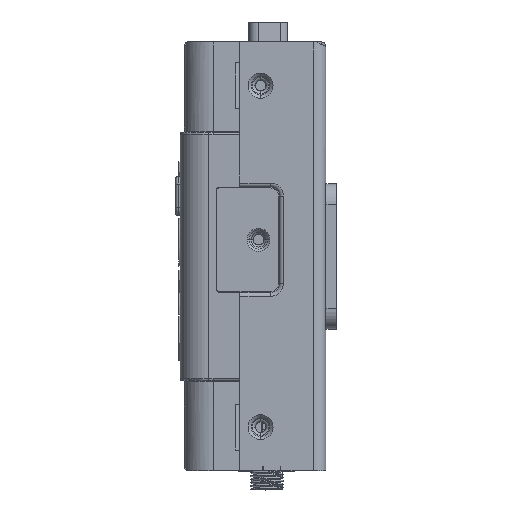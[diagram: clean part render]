
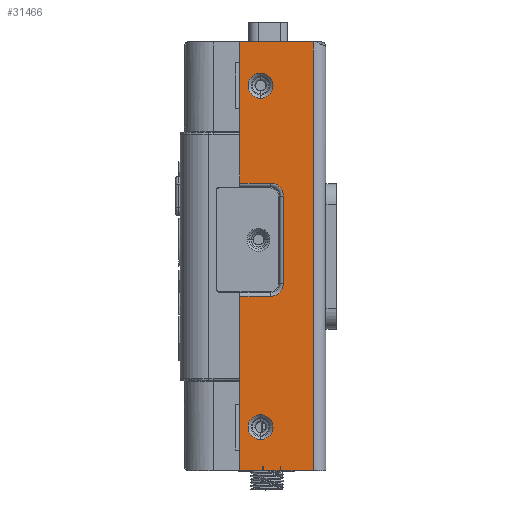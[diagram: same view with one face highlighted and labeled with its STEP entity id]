
A CAD part, left-side view. The second image highlights one B-rep face of the part: STEP entity #31466.
In plain terms, the highlighted planar face has unit normal (-1, 0, 0).
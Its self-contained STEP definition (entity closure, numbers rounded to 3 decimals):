
#210=CARTESIAN_POINT('',(-79.,15.7,-41.));
#211=DIRECTION('',(1.,0.,0.));
#212=DIRECTION('',(0.,0.,1.));
#213=AXIS2_PLACEMENT_3D('',#210,#211,#212);
#215=CARTESIAN_POINT('',(-79.,15.7,-41.));
#216=DIRECTION('',(1.,0.,0.));
#217=DIRECTION('',(0.,0.,-1.));
#218=AXIS2_PLACEMENT_3D('',#215,#216,#217);
#220=CARTESIAN_POINT('',(-79.,15.7,41.));
#221=DIRECTION('',(1.,0.,0.));
#222=DIRECTION('',(0.,0.,1.));
#223=AXIS2_PLACEMENT_3D('',#220,#221,#222);
#225=CARTESIAN_POINT('',(-79.,15.7,41.));
#226=DIRECTION('',(1.,0.,0.));
#227=DIRECTION('',(0.,0.,-1.));
#228=AXIS2_PLACEMENT_3D('',#225,#226,#227);
#230=CARTESIAN_POINT('',(-79.,13.3,-6.5));
#231=DIRECTION('',(1.,0.,0.));
#232=DIRECTION('',(0.,-1.,0.));
#233=AXIS2_PLACEMENT_3D('',#230,#231,#232);
#235=CARTESIAN_POINT('',(-79.,13.3,14.5));
#236=DIRECTION('',(1.,0.,0.));
#237=DIRECTION('',(0.,0.,1.));
#238=AXIS2_PLACEMENT_3D('',#235,#236,#237);
#240=DIRECTION('',(0.,0.,1.));
#241=VECTOR('',#240,11.75);
#242=CARTESIAN_POINT('',(-79.,20.7,17.6));
#243=LINE('',#242,#241);
#244=DIRECTION('',(0.,0.,-1.));
#245=VECTOR('',#244,22.15);
#246=CARTESIAN_POINT('',(-79.,20.7,51.5));
#247=LINE('',#246,#245);
#248=DIRECTION('',(0.,1.,0.));
#249=VECTOR('',#248,17.7);
#250=CARTESIAN_POINT('',(-79.,3.,51.5));
#251=LINE('',#250,#249);
#252=DIRECTION('',(0.,-1.,0.));
#253=VECTOR('',#252,7.85);
#254=CARTESIAN_POINT('',(-79.,10.85,-51.5));
#255=LINE('',#254,#253);
#256=DIRECTION('',(0.,0.,-1.));
#257=VECTOR('',#256,1.);
#258=CARTESIAN_POINT('',(-79.,10.85,-50.5));
#259=LINE('',#258,#257);
#260=DIRECTION('',(0.,-1.,0.));
#261=VECTOR('',#260,0.15);
#262=CARTESIAN_POINT('',(-79.,11.,-50.5));
#263=LINE('',#262,#261);
#264=DIRECTION('',(0.,0.,1.));
#265=VECTOR('',#264,1.);
#266=CARTESIAN_POINT('',(-79.,11.,-51.5));
#267=LINE('',#266,#265);
#268=DIRECTION('',(0.,-1.,0.));
#269=VECTOR('',#268,0.15);
#270=CARTESIAN_POINT('',(-79.,15.15,-50.5));
#271=LINE('',#270,#269);
#272=DIRECTION('',(0.,0.,1.));
#273=VECTOR('',#272,1.);
#274=CARTESIAN_POINT('',(-79.,15.15,-51.5));
#275=LINE('',#274,#273);
#276=DIRECTION('',(0.,-1.,0.));
#277=VECTOR('',#276,5.55);
#278=CARTESIAN_POINT('',(-79.,20.7,-51.5));
#279=LINE('',#278,#277);
#280=DIRECTION('',(0.,0.,-1.));
#281=VECTOR('',#280,22.153);
#282=CARTESIAN_POINT('',(-79.,20.7,-29.347));
#283=LINE('',#282,#281);
#284=DIRECTION('',(0.,0.,1.));
#285=VECTOR('',#284,19.747);
#286=CARTESIAN_POINT('',(-79.,20.7,-29.347));
#287=LINE('',#286,#285);
#308=DIRECTION('',(0.,-1.,0.));
#309=VECTOR('',#308,7.4);
#310=CARTESIAN_POINT('',(-79.,20.7,-9.6));
#311=LINE('',#310,#309);
#1234=DIRECTION('',(0.,0.,1.));
#1235=VECTOR('',#1234,1.);
#1236=CARTESIAN_POINT('',(-79.,15.,-51.5));
#1237=LINE('',#1236,#1235);
#1306=DIRECTION('',(0.,1.,0.));
#1307=VECTOR('',#1306,4.);
#1308=CARTESIAN_POINT('',(-79.,11.,-51.5));
#1309=LINE('',#1308,#1307);
#8995=DIRECTION('',(0.,0.,-1.));
#8996=VECTOR('',#8995,103.);
#8997=CARTESIAN_POINT('',(-79.,3.,51.5));
#8998=LINE('',#8997,#8996);
#24163=DIRECTION('',(0.,1.,0.));
#24164=VECTOR('',#24163,7.4);
#24165=CARTESIAN_POINT('',(-79.,13.3,
17.6));
#24166=LINE('',#24165,#24164);
#24181=DIRECTION('',(0.,0.,1.));
#24182=VECTOR('',#24181,21.);
#24183=CARTESIAN_POINT('',(-79.,10.2,
-6.5));
#24184=LINE('',#24183,#24182);
#26913=CARTESIAN_POINT('',(-79.,3.,-51.5));
#26914=VERTEX_POINT('',#26913);
#26989=CARTESIAN_POINT('',(-79.,3.,51.5));
#26990=VERTEX_POINT('',#26989);
#27071=CARTESIAN_POINT('',(-79.,10.85,-51.5));
#27072=VERTEX_POINT('',#27071);
#27139=CARTESIAN_POINT('',(-79.,20.7,51.5));
#27140=VERTEX_POINT('',#27139);
#27207=CARTESIAN_POINT('',(-79.,10.85,-50.5));
#27208=VERTEX_POINT('',#27207);
#27255=CARTESIAN_POINT('',(-79.,15.7,-38.));
#27256=CARTESIAN_POINT('',(-79.,15.7,-44.));
#27257=VERTEX_POINT('',#27255);
#27258=VERTEX_POINT('',#27256);
#27259=CARTESIAN_POINT('',(-79.,20.7,-51.5));
#27260=CARTESIAN_POINT('',(-79.,15.15,-51.5));
#27261=VERTEX_POINT('',#27259);
#27262=VERTEX_POINT('',#27260);
#27277=CARTESIAN_POINT('',(-79.,15.15,-50.5));
#27278=VERTEX_POINT('',#27277);
#27283=CARTESIAN_POINT('',(-79.,13.3,17.6));
#27285=VERTEX_POINT('',#27283);
#27314=CARTESIAN_POINT('',(-79.,13.3,-9.6));
#27316=VERTEX_POINT('',#27314);
#27317=CARTESIAN_POINT('',(-79.,15.7,44.));
#27318=CARTESIAN_POINT('',(-79.,15.7,38.));
#27319=VERTEX_POINT('',#27317);
#27320=VERTEX_POINT('',#27318);
#27321=CARTESIAN_POINT('',(-79.,10.2,
-6.5));
#27322=VERTEX_POINT('',#27321);
#27328=CARTESIAN_POINT('',(-79.,10.2,14.5));
#27330=VERTEX_POINT('',#27328);
#27777=CARTESIAN_POINT('',(-79.,11.,-51.5));
#27778=VERTEX_POINT('',#27777);
#27813=CARTESIAN_POINT('',(-79.,15.,-51.5));
#27814=VERTEX_POINT('',#27813);
#30691=CARTESIAN_POINT('',(-79.,15.,-50.5));
#30692=VERTEX_POINT('',#30691);
#30693=CARTESIAN_POINT('',(-79.,11.,-50.5));
#30694=VERTEX_POINT('',#30693);
#30711=CARTESIAN_POINT('',(-79.,20.7,
-29.347));
#30712=CARTESIAN_POINT('',(-79.,20.7,-9.6));
#30713=VERTEX_POINT('',#30711);
#30714=VERTEX_POINT('',#30712);
#30715=CARTESIAN_POINT('',(-79.,20.7,17.6));
#30716=CARTESIAN_POINT('',(-79.,20.7,
29.35));
#30717=VERTEX_POINT('',#30715);
#30718=VERTEX_POINT('',#30716);
#31410=CARTESIAN_POINT('',(-79.,1.,51.5));
#31411=DIRECTION('',(-1.,0.,0.));
#31412=DIRECTION('',(0.,0.,1.));
#31413=AXIS2_PLACEMENT_3D('',#31410,#31411,#31412);
#31414=PLANE('',#31413);
#31416=ORIENTED_EDGE('',*,*,#31415,.T.);
#31418=ORIENTED_EDGE('',*,*,#31417,.F.);
#31420=ORIENTED_EDGE('',*,*,#31419,.T.);
#31422=ORIENTED_EDGE('',*,*,#31421,.F.);
#31424=ORIENTED_EDGE('',*,*,#31423,.T.);
#31426=ORIENTED_EDGE('',*,*,#31425,.T.);
#31427=ORIENTED_EDGE('',*,*,#31320,.F.);
#31429=ORIENTED_EDGE('',*,*,#31428,.F.);
#31431=ORIENTED_EDGE('',*,*,#31430,.T.);
#31433=ORIENTED_EDGE('',*,*,#31432,.F.);
#31435=ORIENTED_EDGE('',*,*,#31434,.F.);
#31437=ORIENTED_EDGE('',*,*,#31436,.F.);
#31439=ORIENTED_EDGE('',*,*,#31438,.F.);
#31441=ORIENTED_EDGE('',*,*,#31440,.T.);
#31443=ORIENTED_EDGE('',*,*,#31442,.T.);
#31445=ORIENTED_EDGE('',*,*,#31444,.F.);
#31447=ORIENTED_EDGE('',*,*,#31446,.F.);
#31449=ORIENTED_EDGE('',*,*,#31448,.F.);
#31451=ORIENTED_EDGE('',*,*,#31450,.F.);
#31453=ORIENTED_EDGE('',*,*,#31452,.T.);
#31454=EDGE_LOOP('',(#31416,#31418,#31420,#31422,#31424,#31426,#31427,#31429,
#31431,#31433,#31435,#31437,#31439,#31441,#31443,#31445,#31447,#31449,#31451,
#31453));
#31455=FACE_OUTER_BOUND('',#31454,.F.);
#31457=ORIENTED_EDGE('',*,*,#31456,.F.);
#31459=ORIENTED_EDGE('',*,*,#31458,.F.);
#31460=EDGE_LOOP('',(#31457,#31459));
#31461=FACE_BOUND('',#31460,.F.);
#31462=ORIENTED_EDGE('',*,*,#31389,.F.);
#31463=ORIENTED_EDGE('',*,*,#31403,.F.);
#31464=EDGE_LOOP('',(#31462,#31463));
#31465=FACE_BOUND('',#31464,.F.);
#214=CIRCLE('',#213,3.);
#219=CIRCLE('',#218,3.);
#224=CIRCLE('',#223,3.);
#229=CIRCLE('',#228,3.);
#234=CIRCLE('',#233,3.1);
#239=CIRCLE('',#238,3.1);
#31320=EDGE_CURVE('',#27140,#30718,#247,.T.);
#31389=EDGE_CURVE('',#27257,#27258,#214,.T.);
#31403=EDGE_CURVE('',#27258,#27257,#219,.T.);
#31415=EDGE_CURVE('',#30714,#27316,#311,.T.);
#31417=EDGE_CURVE('',#27322,#27316,#234,.T.);
#31419=EDGE_CURVE('',#27322,#27330,#24184,.T.);
#31421=EDGE_CURVE('',#27285,#27330,#239,.T.);
#31423=EDGE_CURVE('',#27285,#30717,#24166,.T.);
#31425=EDGE_CURVE('',#30717,#30718,#243,.T.);
#31428=EDGE_CURVE('',#26990,#27140,#251,.T.);
#31430=EDGE_CURVE('',#26990,#26914,#8998,.T.);
#31432=EDGE_CURVE('',#27072,#26914,#255,.T.);
#31434=EDGE_CURVE('',#27208,#27072,#259,.T.);
#31436=EDGE_CURVE('',#30694,#27208,#263,.T.);
#31438=EDGE_CURVE('',#27778,#30694,#267,.T.);
#31440=EDGE_CURVE('',#27778,#27814,#1309,.T.);
#31442=EDGE_CURVE('',#27814,#30692,#1237,.T.);
#31444=EDGE_CURVE('',#27278,#30692,#271,.T.);
#31446=EDGE_CURVE('',#27262,#27278,#275,.T.);
#31448=EDGE_CURVE('',#27261,#27262,#279,.T.);
#31450=EDGE_CURVE('',#30713,#27261,#283,.T.);
#31452=EDGE_CURVE('',#30713,#30714,#287,.T.);
#31456=EDGE_CURVE('',#27319,#27320,#224,.T.);
#31458=EDGE_CURVE('',#27320,#27319,#229,.T.);
#31466=ADVANCED_FACE('',(#31455,#31461,#31465),#31414,.T.);
